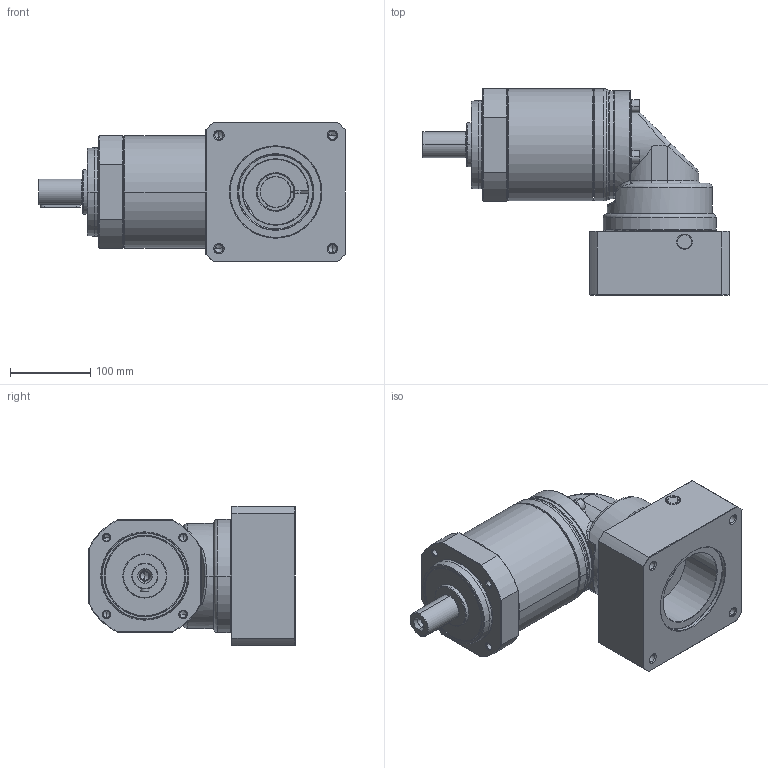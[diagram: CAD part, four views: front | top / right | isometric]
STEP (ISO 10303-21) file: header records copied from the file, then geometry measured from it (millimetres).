
FILE_DESCRIPTION((''),'2;1');
FILE_NAME('PS2R-E_2ST_38-P0411900101_ASM','2016-06-01T',('d01943'),(''),'PRO/ENGINEER BY PARAMETRIC TECHNOLOGY CORPORATION, 2008410','PRO/ENGINEER BY PARAMETRIC TECHNOLOGY CORPORATION, 2008410','');
FILE_SCHEMA(('CONFIG_CONTROL_DESIGN'));
Length unit declared in the file: millimetre
Products named in the file (12): P1328510001; P0251500001; P0350501401; P1349500001; P1017500001; P0713505001; P0503900010; P1350500501; P0411900101; P1702600001; 2111BA10040; PS2R-E_2ST_38-P0411900101_ASM
Assembly tree (14 placements, depth 2):
  PS2R-E_2ST_38-P0411900101_ASM
    P1328510001
    P0251500001
    P0350501401
    P1349500001
    P1017500001
    P0713505001
    P0503900010
    P1350500501
    P0411900101
    P1702600001
    2111BA10040  x4
Bounding box: 382.5 x 257.5 x 174 mm (x, y, z)
Volume: 4410425.6 mm3; surface area: 588457.9 mm2
Topology: 14 solids, 14 shells, 729 faces, 1606 edges, 925 vertices
Faces by surface type: cylinder 216, cone 214, plane 167, torus 98, bspline 34
Entity records: 23268 total; most frequent: CARTESIAN_POINT 9229, DIRECTION 3094, ORIENTED_EDGE 2724, EDGE_CURVE 1362, AXIS2_PLACEMENT_3D 1300, VERTEX_POINT 805, EDGE_LOOP 707, CIRCLE 678
